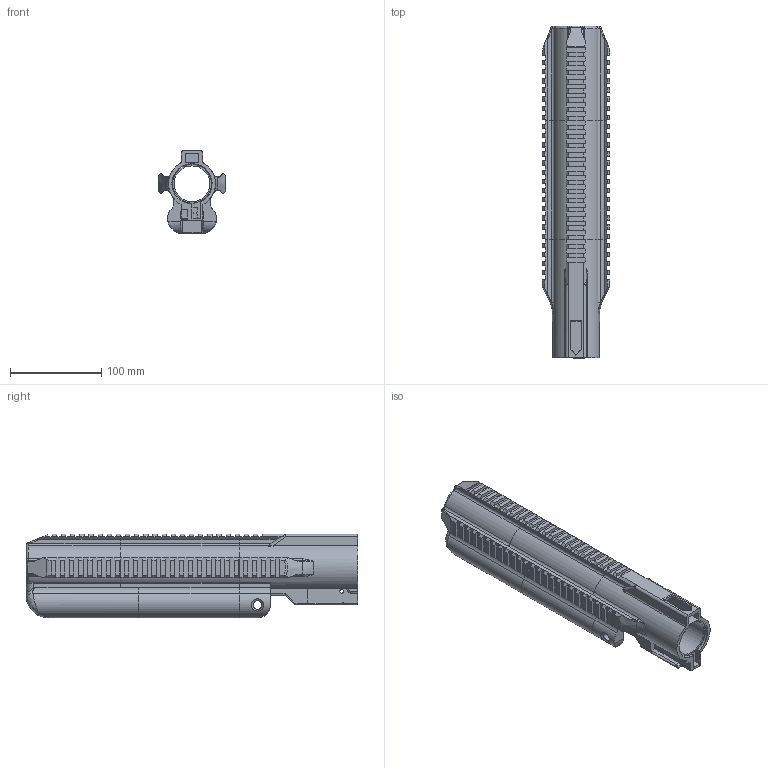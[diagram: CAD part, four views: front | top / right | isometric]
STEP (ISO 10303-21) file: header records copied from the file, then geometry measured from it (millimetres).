
FILE_DESCRIPTION(/* description */ (''),/* implementation_level */ '2;1');
FILE_NAME(/* name */ 'D:\3D Printer stuff\M69\AWCY''s NT79 37mm Signaling Device\barrel assembly\Alternate Barrel Parts\GGD Quad rail gang.stp',/* time_stamp */ '2022-06-25T12:54:08-05:00',/* author */ ('drewk'),/* organization */ (''),/* preprocessor_version */ 'ST-DEVELOPER v18.1',/* originating_system */ 'Autodesk Inventor 2021',/* authorisation */ '');
FILE_SCHEMA (('AUTOMOTIVE_DESIGN { 1 0 10303 214 3 1 1 }'));
Length unit declared in the file: millimetre
Products named in the file (1): TacBarrel_Sides
Bounding box: 73.5 x 363.22 x 91.56 mm (x, y, z)
Volume: 855695.9 mm3; surface area: 322355.4 mm2
Topology: 6 solids, 6 shells, 838 faces, 2408 edges, 1579 vertices
Faces by surface type: plane 668, cylinder 109, bspline 41, torus 14, cone 5, sphere 1
Full cylindrical faces by diameter (mm): 3.35 x4, 4 x3, 9.774 x2, 39 x1, 42.36 x1, 42.5 x2, 42.76 x1
Entity records: 29808 total; most frequent: CARTESIAN_POINT 7869, ORIENTED_EDGE 4802, DIRECTION 4184, EDGE_CURVE 2401, LINE 2016, VECTOR 2016, VERTEX_POINT 1579, AXIS2_PLACEMENT_3D 1084
